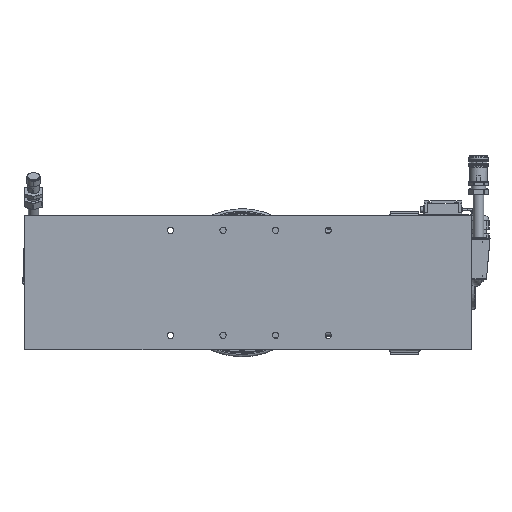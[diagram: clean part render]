
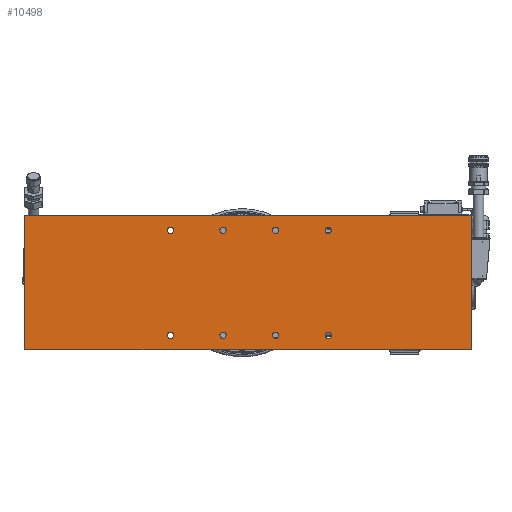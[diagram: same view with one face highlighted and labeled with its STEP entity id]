
A CAD part, left-side view. The second image highlights one B-rep face of the part: STEP entity #10498.
In plain terms, the highlighted planar face has unit normal (-1, 0, 0).
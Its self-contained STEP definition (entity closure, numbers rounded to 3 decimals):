
#94 = DIRECTION ( 'NONE',  ( 1., 0., 0. ) ) ;
#180 = CARTESIAN_POINT ( 'NONE',  ( -350., -480., 140. ) ) ;
#804 = CARTESIAN_POINT ( 'NONE',  ( -350., 40., 110. ) ) ;
#1365 = FACE_BOUND ( 'NONE', #15764, .T. ) ;
#2023 = AXIS2_PLACEMENT_3D ( 'NONE', #804, #23217, #19312 ) ;
#3336 = AXIS2_PLACEMENT_3D ( 'NONE', #20157, #47945, #38412 ) ;
#3537 = VERTEX_POINT ( 'NONE', #33820 ) ;
#4581 = VERTEX_POINT ( 'NONE', #29736 ) ;
#5281 = DIRECTION ( 'NONE',  ( 1., 0., 0. ) ) ;
#5443 = EDGE_CURVE ( 'NONE', #24999, #56740, #23337, .T. ) ;
#5456 = EDGE_LOOP ( 'NONE', ( #55412 ) ) ;
#6281 = CARTESIAN_POINT ( 'NONE',  ( -350., 455., -140. ) ) ;
#6397 = VERTEX_POINT ( 'NONE', #33574 ) ;
#6949 = EDGE_LOOP ( 'NONE', ( #34018 ) ) ;
#7886 = CARTESIAN_POINT ( 'NONE',  ( -350., 150., -110. ) ) ;
#7997 = CARTESIAN_POINT ( 'NONE',  ( -350., 455., -140. ) ) ;
#8631 = CARTESIAN_POINT ( 'NONE',  ( -350., -180., -110. ) ) ;
#9027 = AXIS2_PLACEMENT_3D ( 'NONE', #43365, #20644, #29316 ) ;
#9206 = VERTEX_POINT ( 'NONE', #18453 ) ;
#9894 = DIRECTION ( 'NONE',  ( 0., 0., 1. ) ) ;
#10015 = CARTESIAN_POINT ( 'NONE',  ( -350., -70., 110. ) ) ;
#10498 = ADVANCED_FACE ( 'NONE', ( #56627, #56336, #1365, #15680, #33920, #27969, #46206, #10919, #15384 ), #29133, .F. ) ;
#10919 = FACE_BOUND ( 'NONE', #34473, .T. ) ;
#11683 = CARTESIAN_POINT ( 'NONE',  ( -350., 150., 110. ) ) ;
#11990 = DIRECTION ( 'NONE',  ( 1., 0., 0. ) ) ;
#12115 = DIRECTION ( 'NONE',  ( 0., 1., 0. ) ) ;
#12811 = CARTESIAN_POINT ( 'NONE',  ( -350., -186.5, -110. ) ) ;
#14220 = ORIENTED_EDGE ( 'NONE', *, *, #57702, .T. ) ;
#14982 = AXIS2_PLACEMENT_3D ( 'NONE', #50882, #94, #54780 ) ;
#15104 = DIRECTION ( 'NONE',  ( 0., -1., 0. ) ) ;
#15384 = FACE_BOUND ( 'NONE', #42035, .T. ) ;
#15680 = FACE_BOUND ( 'NONE', #56462, .T. ) ;
#15764 = EDGE_LOOP ( 'NONE', ( #47739 ) ) ;
#15902 = CIRCLE ( 'NONE', #14982, 6.5 ) ;
#16452 = VERTEX_POINT ( 'NONE', #46949 ) ;
#17141 = DIRECTION ( 'NONE',  ( 0., -1., 0. ) ) ;
#17562 = EDGE_CURVE ( 'NONE', #6397, #6397, #53567, .T. ) ;
#17852 = EDGE_CURVE ( 'NONE', #53004, #3537, #20401, .T. ) ;
#18453 = CARTESIAN_POINT ( 'NONE',  ( -350., -76.5, -110. ) ) ;
#19312 = DIRECTION ( 'NONE',  ( 0., -1., 0. ) ) ;
#19594 = CARTESIAN_POINT ( 'NONE',  ( -350., -12.5, 0. ) ) ;
#20154 = ORIENTED_EDGE ( 'NONE', *, *, #31013, .F. ) ;
#20157 = CARTESIAN_POINT ( 'NONE',  ( -350., -70., -110. ) ) ;
#20345 = VECTOR ( 'NONE', #41743, 1000. ) ;
#20401 = LINE ( 'NONE', #52091, #57412 ) ;
#20635 = DIRECTION ( 'NONE',  ( 0., -1., 0. ) ) ;
#20644 = DIRECTION ( 'NONE',  ( 1., 0., 0. ) ) ;
#22058 = CARTESIAN_POINT ( 'NONE',  ( -350., -186.5, 110. ) ) ;
#23217 = DIRECTION ( 'NONE',  ( 1., 0., 0. ) ) ;
#23337 = LINE ( 'NONE', #6281, #32643 ) ;
#23883 = CARTESIAN_POINT ( 'NONE',  ( -350., 33.5, -110. ) ) ;
#24999 = VERTEX_POINT ( 'NONE', #7997 ) ;
#26821 = ORIENTED_EDGE ( 'NONE', *, *, #17562, .T. ) ;
#26825 = DIRECTION ( 'NONE',  ( 1., 0., 0. ) ) ;
#27322 = ORIENTED_EDGE ( 'NONE', *, *, #57018, .T. ) ;
#27481 = EDGE_CURVE ( 'NONE', #16452, #16452, #30209, .T. ) ;
#27969 = FACE_BOUND ( 'NONE', #6949, .T. ) ;
#29133 = PLANE ( 'NONE',  #47571 ) ;
#29316 = DIRECTION ( 'NONE',  ( 0., -1., 0. ) ) ;
#29736 = CARTESIAN_POINT ( 'NONE',  ( -350., -76.5, 110. ) ) ;
#30012 = AXIS2_PLACEMENT_3D ( 'NONE', #8631, #26825, #45075 ) ;
#30209 = CIRCLE ( 'NONE', #34998, 6.5 ) ;
#30429 = VERTEX_POINT ( 'NONE', #12811 ) ;
#31013 = EDGE_CURVE ( 'NONE', #56740, #53004, #37547, .T. ) ;
#31020 = CIRCLE ( 'NONE', #47205, 6.5 ) ;
#32643 = VECTOR ( 'NONE', #9894, 1000. ) ;
#32906 = ORIENTED_EDGE ( 'NONE', *, *, #52100, .T. ) ;
#33574 = CARTESIAN_POINT ( 'NONE',  ( -350., 33.5, 110. ) ) ;
#33820 = CARTESIAN_POINT ( 'NONE',  ( -350., -480., -140. ) ) ;
#33920 = FACE_BOUND ( 'NONE', #5456, .T. ) ;
#34018 = ORIENTED_EDGE ( 'NONE', *, *, #57430, .T. ) ;
#34027 = EDGE_LOOP ( 'NONE', ( #26821 ) ) ;
#34473 = EDGE_LOOP ( 'NONE', ( #32906 ) ) ;
#34798 = CARTESIAN_POINT ( 'NONE',  ( -350., 455., -140. ) ) ;
#34998 = AXIS2_PLACEMENT_3D ( 'NONE', #11683, #11990, #20635 ) ;
#35767 = CIRCLE ( 'NONE', #30012, 6.5 ) ;
#36481 = VERTEX_POINT ( 'NONE', #23883 ) ;
#37288 = EDGE_CURVE ( 'NONE', #9206, #9206, #54871, .T. ) ;
#37547 = LINE ( 'NONE', #37841, #20345 ) ;
#37841 = CARTESIAN_POINT ( 'NONE',  ( -350., 455., 140. ) ) ;
#38412 = DIRECTION ( 'NONE',  ( 0., -1., 0. ) ) ;
#38560 = CIRCLE ( 'NONE', #9027, 6.5 ) ;
#40432 = VECTOR ( 'NONE', #12115, 1000. ) ;
#41743 = DIRECTION ( 'NONE',  ( 0., -1., 0. ) ) ;
#42016 = EDGE_CURVE ( 'NONE', #4581, #4581, #58968, .T. ) ;
#42035 = EDGE_LOOP ( 'NONE', ( #14220 ) ) ;
#42382 = ORIENTED_EDGE ( 'NONE', *, *, #27481, .T. ) ;
#43365 = CARTESIAN_POINT ( 'NONE',  ( -350., -180., 110. ) ) ;
#43441 = CARTESIAN_POINT ( 'NONE',  ( -350., 455., 140. ) ) ;
#43883 = VERTEX_POINT ( 'NONE', #22058 ) ;
#44396 = ORIENTED_EDGE ( 'NONE', *, *, #5443, .F. ) ;
#45075 = DIRECTION ( 'NONE',  ( 0., -1., 0. ) ) ;
#46167 = DIRECTION ( 'NONE',  ( 1., 0., 0. ) ) ;
#46206 = FACE_OUTER_BOUND ( 'NONE', #53366, .T. ) ;
#46949 = CARTESIAN_POINT ( 'NONE',  ( -350., 143.5, 110. ) ) ;
#47032 = DIRECTION ( 'NONE',  ( 0., -1., 0. ) ) ;
#47205 = AXIS2_PLACEMENT_3D ( 'NONE', #7886, #49110, #17141 ) ;
#47571 = AXIS2_PLACEMENT_3D ( 'NONE', #19594, #5281, #15104 ) ;
#47739 = ORIENTED_EDGE ( 'NONE', *, *, #42016, .T. ) ;
#47945 = DIRECTION ( 'NONE',  ( 1., 0., 0. ) ) ;
#49110 = DIRECTION ( 'NONE',  ( 1., 0., 0. ) ) ;
#50882 = CARTESIAN_POINT ( 'NONE',  ( -350., 40., -110. ) ) ;
#51602 = ORIENTED_EDGE ( 'NONE', *, *, #54278, .F. ) ;
#52091 = CARTESIAN_POINT ( 'NONE',  ( -350., -480., -140. ) ) ;
#52100 = EDGE_CURVE ( 'NONE', #36481, #36481, #15902, .T. ) ;
#53004 = VERTEX_POINT ( 'NONE', #180 ) ;
#53366 = EDGE_LOOP ( 'NONE', ( #44396, #51602, #56719, #20154 ) ) ;
#53567 = CIRCLE ( 'NONE', #2023, 6.5 ) ;
#53736 = CARTESIAN_POINT ( 'NONE',  ( -350., 143.5, -110. ) ) ;
#54162 = AXIS2_PLACEMENT_3D ( 'NONE', #10015, #46167, #47032 ) ;
#54278 = EDGE_CURVE ( 'NONE', #3537, #24999, #57521, .T. ) ;
#54336 = VERTEX_POINT ( 'NONE', #53736 ) ;
#54780 = DIRECTION ( 'NONE',  ( 0., -1., 0. ) ) ;
#54871 = CIRCLE ( 'NONE', #3336, 6.5 ) ;
#55412 = ORIENTED_EDGE ( 'NONE', *, *, #37288, .T. ) ;
#55931 = EDGE_LOOP ( 'NONE', ( #42382 ) ) ;
#56336 = FACE_BOUND ( 'NONE', #34027, .T. ) ;
#56462 = EDGE_LOOP ( 'NONE', ( #27322 ) ) ;
#56627 = FACE_BOUND ( 'NONE', #55931, .T. ) ;
#56719 = ORIENTED_EDGE ( 'NONE', *, *, #17852, .F. ) ;
#56740 = VERTEX_POINT ( 'NONE', #43441 ) ;
#56877 = DIRECTION ( 'NONE',  ( 0., 0., -1. ) ) ;
#57018 = EDGE_CURVE ( 'NONE', #43883, #43883, #38560, .T. ) ;
#57412 = VECTOR ( 'NONE', #56877, 1000. ) ;
#57430 = EDGE_CURVE ( 'NONE', #30429, #30429, #35767, .T. ) ;
#57521 = LINE ( 'NONE', #34798, #40432 ) ;
#57702 = EDGE_CURVE ( 'NONE', #54336, #54336, #31020, .T. ) ;
#58968 = CIRCLE ( 'NONE', #54162, 6.5 ) ;
